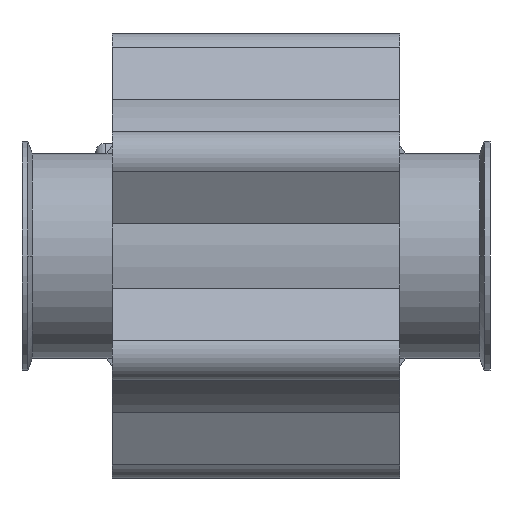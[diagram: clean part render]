
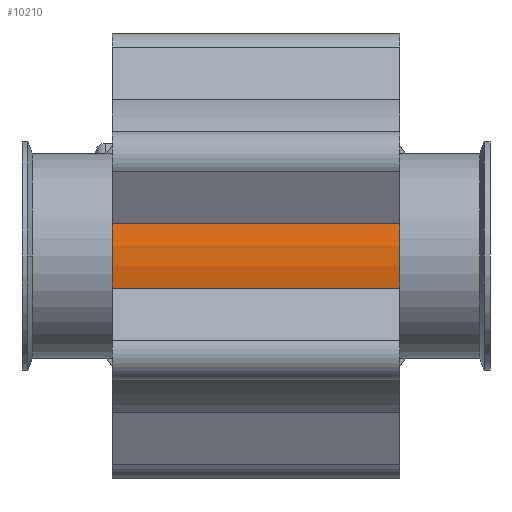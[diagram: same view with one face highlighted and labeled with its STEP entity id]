
A CAD part, front view. The second image highlights one B-rep face of the part: STEP entity #10210.
In plain terms, the highlighted cylindrical face has radius 86 mm (diameter 172 mm), a partial arc.
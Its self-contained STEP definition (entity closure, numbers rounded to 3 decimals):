
#100=CARTESIAN_POINT('',(84.375,14.,
16.641));
#110=VERTEX_POINT('',#100);
#160=CARTESIAN_POINT('',(84.375,14.,16.641));
#170=DIRECTION('',(0.,-1.,0.));
#180=VECTOR('',#170,1.);
#190=LINE('',#160,#180);
#200=CARTESIAN_POINT('',(84.375,-135.5,16.641));
#210=VERTEX_POINT('',#200);
#220=EDGE_CURVE('',#110,#210,#190,.T.);
#7780=CARTESIAN_POINT('',(0.,-135.5,0.));
#7790=DIRECTION('',(0.,-1.,0.));
#7800=DIRECTION('',(0.,0.,-1.));
#7810=AXIS2_PLACEMENT_3D('',#7780,#7790,#7800);
#7820=CIRCLE('',#7810,86.);
#7830=CARTESIAN_POINT('',(84.375,-135.5,-16.641));
#7840=VERTEX_POINT('',#7830);
#7850=EDGE_CURVE('',#7840,#210,#7820,.T.);
#9970=CARTESIAN_POINT('',(0.,14.,0.));
#9980=DIRECTION('',(0.,-1.,0.));
#9990=DIRECTION('',(0.,0.,-1.));
#10000=AXIS2_PLACEMENT_3D('',#9970,#9980,#9990);
#10010=CYLINDRICAL_SURFACE('',#10000,86.);
#10020=ORIENTED_EDGE('',*,*,#7850,.F.);
#10030=ORIENTED_EDGE('',*,*,#220,.T.);
#10040=CARTESIAN_POINT('',(0.,14.,0.));
#10050=DIRECTION('',(0.,-1.,0.));
#10060=DIRECTION('',(0.,0.,-1.));
#10070=AXIS2_PLACEMENT_3D('',#10040,#10050,#10060);
#10080=CIRCLE('',#10070,86.);
#10090=CARTESIAN_POINT('',(84.375,14.,
-16.641));
#10100=VERTEX_POINT('',#10090);
#10110=EDGE_CURVE('',#10100,#110,#10080,.T.);
#10120=ORIENTED_EDGE('',*,*,#10110,.T.);
#10130=CARTESIAN_POINT('',(84.375,-135.5,-16.641));
#10140=DIRECTION('',(0.,1.,0.));
#10150=VECTOR('',#10140,1.);
#10160=LINE('',#10130,#10150);
#10170=EDGE_CURVE('',#7840,#10100,#10160,.T.);
#10180=ORIENTED_EDGE('',*,*,#10170,.T.);
#10190=EDGE_LOOP('',(#10180,#10120,#10030,#10020));
#10200=FACE_OUTER_BOUND('',#10190,.T.);
#10210=ADVANCED_FACE('',(#10200),#10010,.T.);
